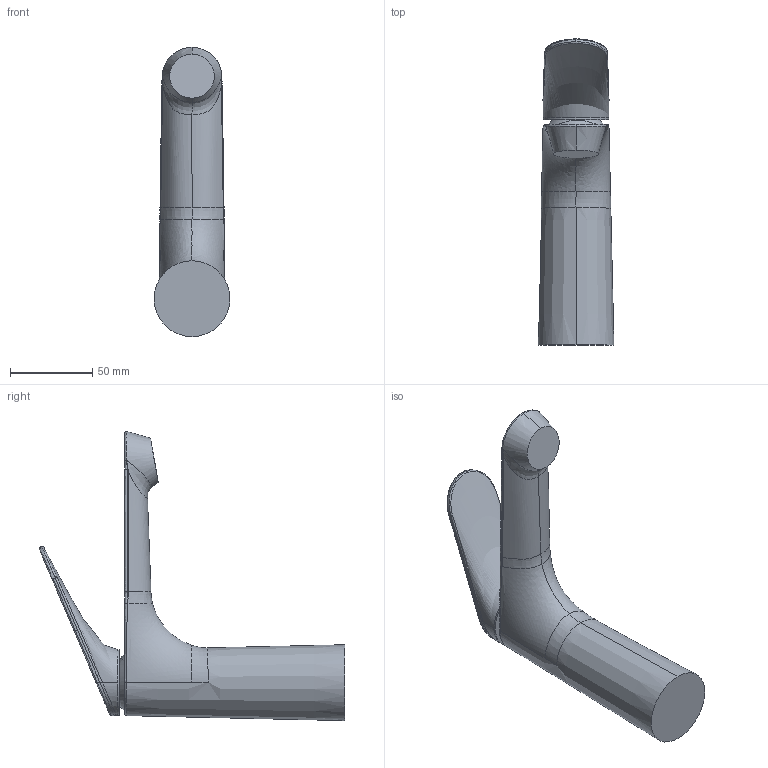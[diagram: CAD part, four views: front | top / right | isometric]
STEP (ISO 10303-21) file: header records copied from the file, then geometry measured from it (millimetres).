
FILE_DESCRIPTION (( 'STEP AP203' ), '1' );
FILE_NAME ('37402263(2025).STEP', '2024-12-17T12:42:45', ( '' ), ( '' ), 'SwSTEP 2.0', 'SolidWorks 2024', '' );
FILE_SCHEMA (( 'CONFIG_CONTROL_DESIGN' ));
Length unit declared in the file: millimetre
Products named in the file (1): 37402263(2025)
Bounding box: 45.99 x 185.45 x 175.34 mm (x, y, z)
Volume: 300688 mm3; surface area: 41825 mm2
Topology: 1 solids, 1 shells, 75 faces, 189 edges, 116 vertices
Faces by surface type: bspline 68, plane 4, cone 3
Entity records: 19166 total; most frequent: CARTESIAN_POINT 17843, ORIENTED_EDGE 374, EDGE_CURVE 187, B_SPLINE_CURVE_WITH_KNOTS 148, VERTEX_POINT 116, EDGE_LOOP 77, FACE_OUTER_BOUND 75, ADVANCED_FACE 75
